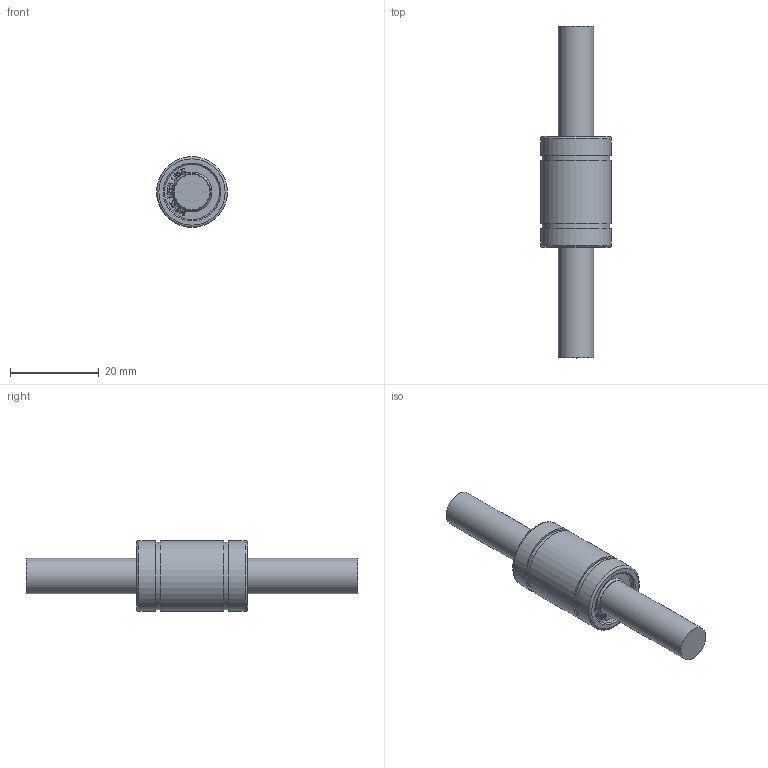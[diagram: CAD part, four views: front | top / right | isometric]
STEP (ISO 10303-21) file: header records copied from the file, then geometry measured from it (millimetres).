
FILE_DESCRIPTION(/* description */ (''),/* implementation_level */ '2;1');
FILE_NAME(/* name */ 'W:\(01) 2024년 홈페이지 CAD파일 최신화\LME\IPT\LME08UU.stp',/* time_stamp */ '2025-01-25T08:54:58+09:00',/* author */ ('서우현'),/* organization */ (''),/* preprocessor_version */ 'ST-DEVELOPER v17.2',/* originating_system */ 'Autodesk Inventor 2019',/* authorisation */ '');
FILE_SCHEMA (('AUTOMOTIVE_DESIGN { 1 0 10303 214 3 1 1 }'));
Length unit declared in the file: millimetre
Products named in the file (1): LM5
Bounding box: 16 x 75 x 16 mm (x, y, z)
Volume: 7313.6 mm3; surface area: 3123.8 mm2
Topology: 1 solids, 1 shells, 813 faces, 2293 edges, 1536 vertices
Faces by surface type: bspline 580, plane 218, cylinder 9, cone 4, torus 2
Full cylindrical faces by diameter (mm): 8 x2, 12.4 x2, 15.2 x2, 16 x3
Entity records: 28162 total; most frequent: CARTESIAN_POINT 10631, ORIENTED_EDGE 4586, EDGE_CURVE 2293, DIRECTION 1655, VERTEX_POINT 1536, B_SPLINE_CURVE_WITH_KNOTS 1160, LINE 1079, VECTOR 1079
